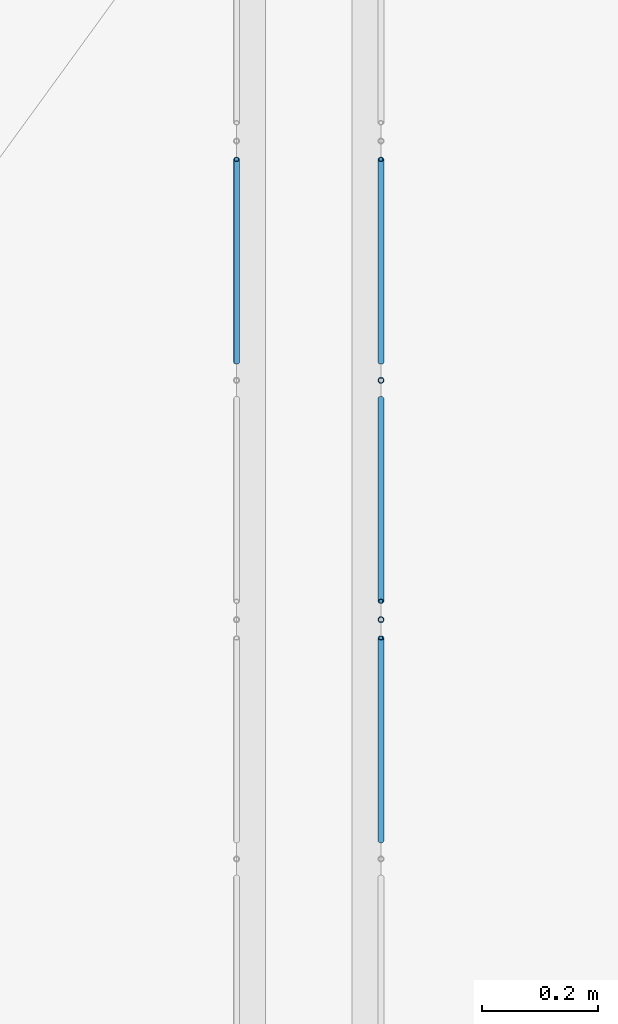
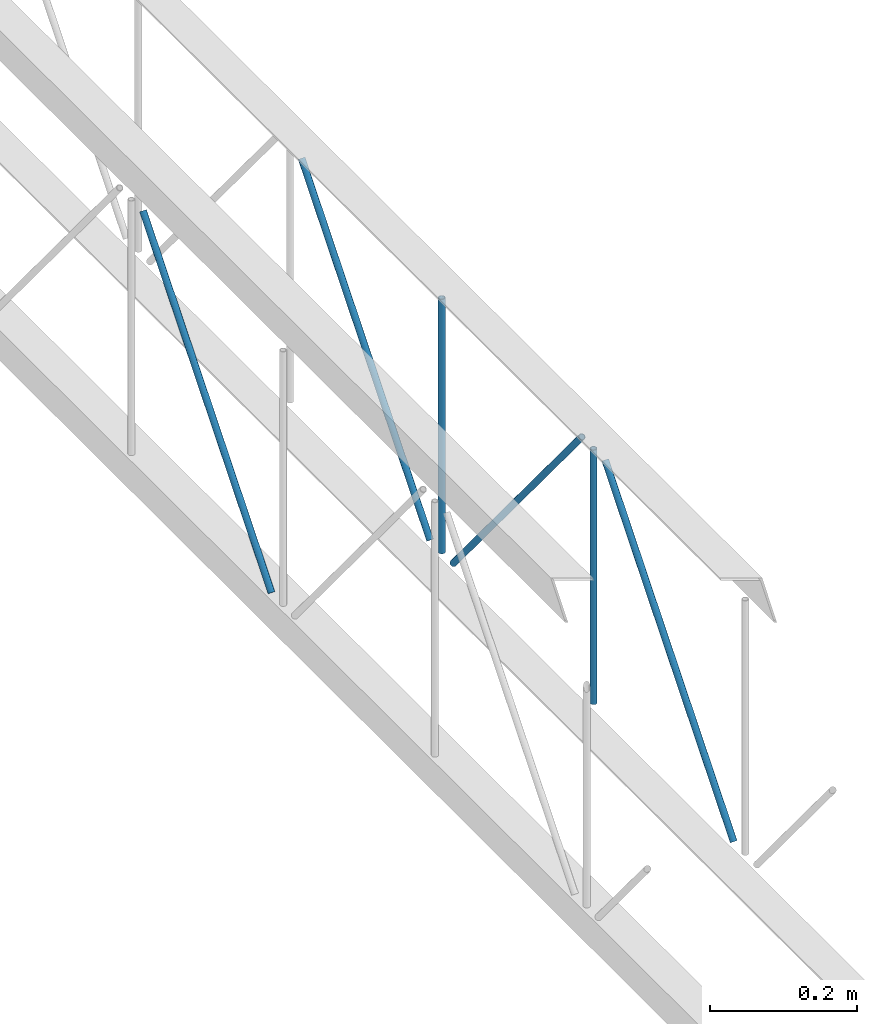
# One storey, part 25 of 153: 6 members, 2 elements without a shape of their own.
"""IFC4 building model written with IfcOpenShell, lengths in metres."""

from ifc_helpers import new_model, entity, si_unit, converted_unit, derived_unit, direction, frame, origin, place, context, subcontext, project, spatial, arc, indexed_curve, outline, extrude, source, transform, mapped, material, type_object, type_shapes, element, aggregate, save


model = new_model("IFC4")

# Units and contexts
model_context = context("Model", 3, precision=1e-05, world=origin(), true_north=direction((6.123031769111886e-17, 1.0)))
body_context = subcontext(model_context, "Body", "Model", "MODEL_VIEW")
ifc_project = project(units=[si_unit("LENGTHUNIT", "METRE"), si_unit("AREAUNIT", "SQUARE_METRE"), si_unit("VOLUMEUNIT", "CUBIC_METRE"), converted_unit("PLANEANGLEUNIT", "DEGREE", entity("IfcRatioMeasure", 0.017453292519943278), si_unit("PLANEANGLEUNIT", "RADIAN"), dimensions=[0, 0, 0, 0, 0, 0, 0]), si_unit("MASSUNIT", "GRAM", prefix="KILO"), derived_unit("MASSDENSITYUNIT", [(si_unit("MASSUNIT", "GRAM", prefix="KILO"), 1), (si_unit("LENGTHUNIT", "METRE"), -3)]), derived_unit("MOMENTOFINERTIAUNIT", [(si_unit("LENGTHUNIT", "METRE"), 4)]), si_unit("TIMEUNIT", "SECOND"), si_unit("FREQUENCYUNIT", "HERTZ"), si_unit("THERMODYNAMICTEMPERATUREUNIT", "DEGREE_CELSIUS"), derived_unit("THERMALTRANSMITTANCEUNIT", [(si_unit("MASSUNIT", "GRAM", prefix="KILO"), 1), (si_unit("THERMODYNAMICTEMPERATUREUNIT", "KELVIN"), -1), (si_unit("TIMEUNIT", "SECOND"), -3)]), derived_unit("VOLUMETRICFLOWRATEUNIT", [(si_unit("LENGTHUNIT", "METRE"), 3), (si_unit("TIMEUNIT", "SECOND"), -1)]), derived_unit("MASSFLOWRATEUNIT", [(si_unit("MASSUNIT", "GRAM", prefix="KILO"), 1), (si_unit("TIMEUNIT", "SECOND"), -1)]), derived_unit("ROTATIONALFREQUENCYUNIT", [(si_unit("TIMEUNIT", "SECOND"), -1)]), si_unit("ELECTRICCURRENTUNIT", "AMPERE"), si_unit("ELECTRICVOLTAGEUNIT", "VOLT"), si_unit("POWERUNIT", "WATT"), si_unit("FORCEUNIT", "NEWTON", prefix="KILO"), si_unit("ILLUMINANCEUNIT", "LUX"), si_unit("LUMINOUSFLUXUNIT", "LUMEN"), si_unit("LUMINOUSINTENSITYUNIT", "CANDELA"), derived_unit("USERDEFINED", [(si_unit("MASSUNIT", "GRAM", prefix="KILO"), -1), (si_unit("LENGTHUNIT", "METRE"), -2), (si_unit("TIMEUNIT", "SECOND"), 3), (si_unit("LUMINOUSFLUXUNIT", "LUMEN"), 1)]), derived_unit("SOUNDPOWERUNIT", [(si_unit("MASSUNIT", "GRAM", prefix="KILO"), 1), (si_unit("LENGTHUNIT", "METRE"), 2), (si_unit("TIMEUNIT", "SECOND"), -3)]), derived_unit("SOUNDPRESSUREUNIT", [(si_unit("MASSUNIT", "GRAM", prefix="KILO"), 1), (si_unit("LENGTHUNIT", "METRE"), -1), (si_unit("TIMEUNIT", "SECOND"), -2)]), derived_unit("LINEARVELOCITYUNIT", [(si_unit("LENGTHUNIT", "METRE"), 1), (si_unit("TIMEUNIT", "SECOND"), -1)]), si_unit("PRESSUREUNIT", "PASCAL"), derived_unit("USERDEFINED", [(si_unit("LENGTHUNIT", "METRE"), -2), (si_unit("MASSUNIT", "GRAM", prefix="KILO"), 1), (si_unit("TIMEUNIT", "SECOND"), -2)]), derived_unit("LINEARFORCEUNIT", [(si_unit("MASSUNIT", "GRAM", prefix="KILO"), 1), (si_unit("LENGTHUNIT", "METRE"), 1), (si_unit("TIMEUNIT", "SECOND"), -2), (si_unit("LENGTHUNIT", "METRE"), -1)]), derived_unit("PLANARFORCEUNIT", [(si_unit("MASSUNIT", "GRAM", prefix="KILO"), 1), (si_unit("LENGTHUNIT", "METRE"), 1), (si_unit("TIMEUNIT", "SECOND"), -2), (si_unit("LENGTHUNIT", "METRE"), -2)])], contexts=[model_context])

# Site, building, storey
site_placement = place(None, origin())
site = spatial("IfcSite", under=ifc_project, at=site_placement, Name="Superficie", CompositionType="ELEMENT")
building_placement = place(site_placement, origin())
building = spatial("IfcBuilding", under=site, at=building_placement, CompositionType="ELEMENT")
storey_placement = place(building_placement, frame((0.0, 0.0, 3.5999999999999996)))
storey = spatial("IfcBuildingStorey", under=building, at=storey_placement, Name="Nivel 1", CompositionType="ELEMENT", Elevation=3.5999999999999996)

# Assembly, member
assembly_1_placement = place(storey_placement, origin())
assembly_1 = element("IfcElementAssembly", 1, at=assembly_1_placement, inside=storey, Name="Viga de celosia 13:Viga de celosia 13", ObjectType="Viga de celosia 13:Viga de celosia 13", AssemblyPlace="NOTDEFINED", PredefinedType="TRUSS")
ifc_material = material(Name="Metal - Calibre delgado", Category="Metal")
member_type_1 = type_object("IfcMemberType", Name="HSS-Tubo estructural redondo:HSS 0.01", PredefinedType="BRACE", material=ifc_material)
shared_shape_1 = source(origin(), body_context, "Body", "SweptSolid", [
    extrude(outline(indexed_curve([(-0.005000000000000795, 7.502054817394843e-18), (-9.800269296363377e-18, -0.005000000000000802), (0.005000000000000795, -7.502054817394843e-18), (8.07772287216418e-18, 0.005000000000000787)], segments=[arc(1, 2, 3), arc(3, 4, 1)], self_intersect=False), holes=[indexed_curve([(0.003999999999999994, 7.222511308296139e-17), (6.910645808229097e-17, -0.004000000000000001), (-0.003999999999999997, -1.8650054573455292e-17), (-2.9156497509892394e-17, 0.003999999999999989)], segments=[arc(1, 2, 3), arc(3, 4, 1)], self_intersect=False)]), frame((-0.275, 0.0, 0.0), z_axis=(1.0, 0.0, 0.0), x_axis=(0.0, 1.0, 0.0)), (0.0, 0.0, 1.0), 0.55),
])
type_shapes(member_type_1, [shared_shape_1])
member_1_placement = place(assembly_1_placement, frame((-18.70320098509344, -5.198164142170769, 0.25), z_axis=(0.0, 0.7699758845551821, -0.6380729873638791), x_axis=(0.0, 0.6380729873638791, 0.7699758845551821)))
member_1 = element("IfcMember", 2, at=member_1_placement, type_object=member_type_1, material=ifc_material, Name="HSS-Tubo estructural redondo:HSS 0.01", ObjectType="HSS-Tubo estructural redondo:HSS 0.01", PredefinedType="BRACE", context=body_context, shape_type="MappedRepresentation", body=[
    mapped(shared_shape_1, transform((0.0, 0.0, 0.0), scale=1.0)),
])
aggregate(assembly_1, [member_1])

# Assembly, members
assembly_2_placement = place(storey_placement, origin())
assembly_2 = element("IfcElementAssembly", 3, at=assembly_2_placement, inside=storey, Name="Viga de celosia 13:Viga de celosia 13", ObjectType="Viga de celosia 13:Viga de celosia 13", AssemblyPlace="NOTDEFINED", PredefinedType="TRUSS")
member_type_2 = type_object("IfcMemberType", Name="HSS-Tubo estructural redondo:HSS 0.01", PredefinedType="BRACE", material=ifc_material)
shared_shape_2 = source(origin(), body_context, "Body", "SweptSolid", [
    extrude(outline(indexed_curve([(-0.005000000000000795, 2.0824731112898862e-17), (-2.3122945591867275e-17, -0.005000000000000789), (0.005000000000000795, -2.08247311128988e-17), (2.14003991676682e-17, 0.005000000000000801)], segments=[arc(1, 2, 3), arc(3, 4, 1)], self_intersect=False), holes=[indexed_curve([(0.003999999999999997, -1.3094283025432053e-17), (-1.531427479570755e-18, -0.003999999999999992), (-0.004, 4.0098531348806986e-17), (4.1481388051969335e-17, 0.0039999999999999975)], segments=[arc(1, 2, 3), arc(3, 4, 1)], self_intersect=False)]), frame((-0.21200000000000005, 0.0, 0.0), z_axis=(1.0, 0.0, 0.0), x_axis=(0.0, -1.0, 0.0)), (0.0, 0.0, 1.0), 0.4240000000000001),
])
type_shapes(member_type_2, [shared_shape_2])
member_2_placement = place(assembly_2_placement, frame((-18.45320098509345, -5.819683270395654, 0.25), z_axis=(0.0, 1.0, 0.0), x_axis=(0.0, 0.0, 1.0)))
member_2 = element("IfcMember", 4, at=member_2_placement, type_object=member_type_2, material=ifc_material, Name="HSS-Tubo estructural redondo:HSS 0.01", ObjectType="HSS-Tubo estructural redondo:HSS 0.01", PredefinedType="BRACE", context=body_context, shape_type="MappedRepresentation", body=[
    mapped(shared_shape_2, transform((0.0, 0.0, 0.0), scale=1.0)),
])
member_3_placement = place(assembly_2_placement, frame((-18.453200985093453, -5.405337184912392, 0.25), z_axis=(0.0, 1.0, 0.0), x_axis=(0.0, 0.0, 1.0)))
member_3 = element("IfcMember", 5, at=member_3_placement, type_object=member_type_2, material=ifc_material, Name="HSS-Tubo estructural redondo:HSS 0.01", ObjectType="HSS-Tubo estructural redondo:HSS 0.01", PredefinedType="BRACE", context=body_context, shape_type="MappedRepresentation", body=[
    mapped(shared_shape_2, transform((0.0, 0.0, 0.0), scale=1.0)),
])
member_type_3 = type_object("IfcMemberType", Name="HSS-Tubo estructural redondo:HSS 0.01", PredefinedType="BRACE", material=ifc_material)
shared_shape_3 = source(origin(), body_context, "Body", "SweptSolid", [
    extrude(outline(indexed_curve([(-0.005000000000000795, 2.0824731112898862e-17), (-2.3122945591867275e-17, -0.005000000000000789), (0.005000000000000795, -2.08247311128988e-17), (2.14003991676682e-17, 0.005000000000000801)], segments=[arc(1, 2, 3), arc(3, 4, 1)], self_intersect=False), holes=[indexed_curve([(0.003999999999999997, -1.3094283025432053e-17), (-1.531427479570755e-18, -0.003999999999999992), (-0.004, 4.0098531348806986e-17), (4.1481388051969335e-17, 0.0039999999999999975)], segments=[arc(1, 2, 3), arc(3, 4, 1)], self_intersect=False)]), frame((-0.275, 0.0, 0.0), z_axis=(1.0, 0.0, 0.0), x_axis=(0.0, -1.0, 0.0)), (0.0, 0.0, 1.0), 0.55),
])
type_shapes(member_type_3, [shared_shape_3])
member_4_placement = place(assembly_2_placement, frame((-18.45320098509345, -6.026856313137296, 0.25000000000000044), z_axis=(0.0, 0.7699758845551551, -0.6380729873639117), x_axis=(0.0, 0.6380729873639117, 0.7699758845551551)))
member_4 = element("IfcMember", 6, at=member_4_placement, type_object=member_type_3, material=ifc_material, Name="HSS-Tubo estructural redondo:HSS 0.01", ObjectType="HSS-Tubo estructural redondo:HSS 0.01", PredefinedType="BRACE", context=body_context, shape_type="MappedRepresentation", body=[
    mapped(shared_shape_3, transform((0.0, 0.0, 0.0), scale=1.0)),
])
member_5_placement = place(assembly_2_placement, frame((-18.45320098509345, -5.612510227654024, 0.25), z_axis=(0.0, -0.7699758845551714, -0.638072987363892), x_axis=(0.0, 0.638072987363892, -0.7699758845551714)))
member_5 = element("IfcMember", 7, at=member_5_placement, type_object=member_type_3, material=ifc_material, Name="HSS-Tubo estructural redondo:HSS 0.01", ObjectType="HSS-Tubo estructural redondo:HSS 0.01", PredefinedType="BRACE", context=body_context, shape_type="MappedRepresentation", body=[
    mapped(shared_shape_3, transform((0.0, 0.0, 0.0), scale=1.0)),
])
member_6_placement = place(assembly_2_placement, frame((-18.453200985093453, -5.198164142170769, 0.25), z_axis=(0.0, 0.7699758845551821, -0.6380729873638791), x_axis=(0.0, 0.6380729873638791, 0.7699758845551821)))
member_6 = element("IfcMember", 8, at=member_6_placement, type_object=member_type_3, material=ifc_material, Name="HSS-Tubo estructural redondo:HSS 0.01", ObjectType="HSS-Tubo estructural redondo:HSS 0.01", PredefinedType="BRACE", context=body_context, shape_type="MappedRepresentation", body=[
    mapped(shared_shape_3, transform((0.0, 0.0, 0.0), scale=1.0)),
])
aggregate(assembly_2, [member_2, member_3, member_4, member_5, member_6])

save(model, "model.ifc")
